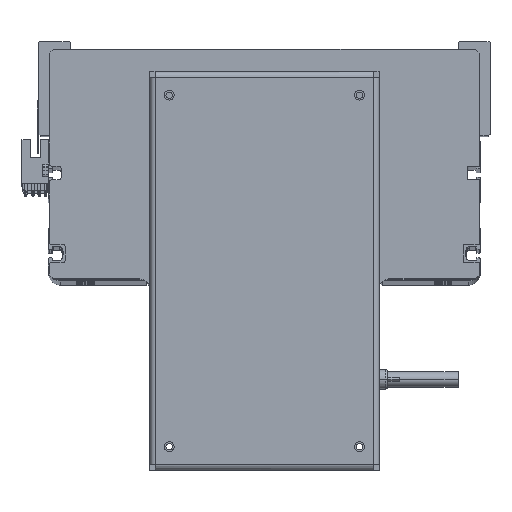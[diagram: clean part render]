
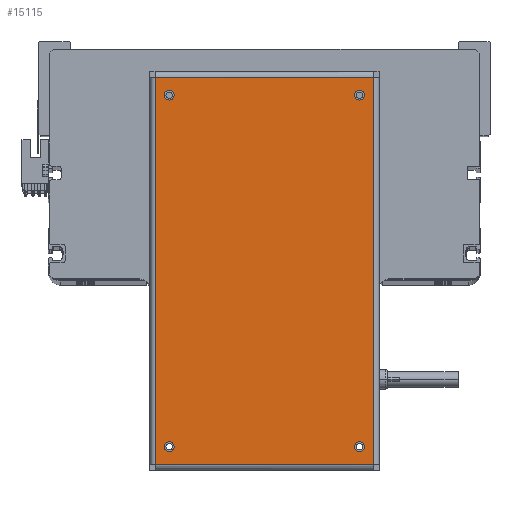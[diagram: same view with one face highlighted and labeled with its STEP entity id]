
A CAD part, top view. The second image highlights one B-rep face of the part: STEP entity #15115.
In plain terms, the highlighted planar face has unit normal (0, 0, 1).
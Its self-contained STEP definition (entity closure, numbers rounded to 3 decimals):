
#17 = VERTEX_POINT ( 'NONE', #34795 ) ;
#600 = EDGE_CURVE ( 'NONE', #17, #27424, #40005, .T. ) ;
#895 = ORIENTED_EDGE ( 'NONE', *, *, #21674, .F. ) ;
#902 = ORIENTED_EDGE ( 'NONE', *, *, #40628, .F. ) ;
#972 = VERTEX_POINT ( 'NONE', #19240 ) ;
#982 = DIRECTION ( 'NONE',  ( 1., 0., 0. ) ) ;
#2079 = AXIS2_PLACEMENT_3D ( 'NONE', #23780, #29968, #36384 ) ;
#2486 = AXIS2_PLACEMENT_3D ( 'NONE', #6886, #35305, #9848 ) ;
#2865 = CARTESIAN_POINT ( 'NONE',  ( 89.55, 48.5, 0. ) ) ;
#4218 = ORIENTED_EDGE ( 'NONE', *, *, #600, .T. ) ;
#4968 = CARTESIAN_POINT ( 'NONE',  ( -87.05, 48.5, 0. ) ) ;
#5200 = CARTESIAN_POINT ( 'NONE',  ( 89.55, -48.5, 0. ) ) ;
#5743 = DIRECTION ( 'NONE',  ( 0., 0., 1. ) ) ;
#6485 = ORIENTED_EDGE ( 'NONE', *, *, #33962, .T. ) ;
#6886 = CARTESIAN_POINT ( 'NONE',  ( 89.55, 48.5, 0. ) ) ;
#7955 = AXIS2_PLACEMENT_3D ( 'NONE', #10368, #26292, #982 ) ;
#8122 = VERTEX_POINT ( 'NONE', #30812 ) ;
#8965 = CARTESIAN_POINT ( 'NONE',  ( 89.55, -48.5, 0. ) ) ;
#9848 = DIRECTION ( 'NONE',  ( 1., 0., 0. ) ) ;
#10368 = CARTESIAN_POINT ( 'NONE',  ( -89.55, -48.5, 0. ) ) ;
#10667 = FACE_BOUND ( 'NONE', #17908, .T. ) ;
#11191 = DIRECTION ( 'NONE',  ( 1., 0., 0. ) ) ;
#11474 = CARTESIAN_POINT ( 'NONE',  ( 98.65, -55.6, 0. ) ) ;
#11674 = FACE_OUTER_BOUND ( 'NONE', #13262, .T. ) ;
#11950 = VERTEX_POINT ( 'NONE', #34826 ) ;
#12080 = CARTESIAN_POINT ( 'NONE',  ( -87.05, -48.5, 0. ) ) ;
#12121 = DIRECTION ( 'NONE',  ( 1., 0., 0. ) ) ;
#12335 = CIRCLE ( 'NONE', #7955, 2.5 ) ;
#12493 = ORIENTED_EDGE ( 'NONE', *, *, #16186, .F. ) ;
#12807 = CARTESIAN_POINT ( 'NONE',  ( 92.05, -48.5, 0. ) ) ;
#13262 = EDGE_LOOP ( 'NONE', ( #39455, #6485, #23081, #4218 ) ) ;
#13671 = VERTEX_POINT ( 'NONE', #23664 ) ;
#14529 = VECTOR ( 'NONE', #30536, 1000. ) ;
#15115 = ADVANCED_FACE ( 'NONE', ( #37162, #28665, #10667, #20150, #11674 ), #40806, .F. ) ;
#15138 = LINE ( 'NONE', #11474, #26133 ) ;
#15450 = VECTOR ( 'NONE', #40626, 1000. ) ;
#15687 = CARTESIAN_POINT ( 'NONE',  ( -92.05, 48.5, 0. ) ) ;
#16186 = EDGE_CURVE ( 'NONE', #31604, #13671, #41095, .T. ) ;
#17272 = EDGE_LOOP ( 'NONE', ( #902, #37098 ) ) ;
#17527 = CIRCLE ( 'NONE', #24713, 2.5 ) ;
#17908 = EDGE_LOOP ( 'NONE', ( #26287, #19791 ) ) ;
#17927 = CARTESIAN_POINT ( 'NONE',  ( 98.75, 55.6, 0. ) ) ;
#18836 = AXIS2_PLACEMENT_3D ( 'NONE', #40098, #30465, #11191 ) ;
#19214 = EDGE_CURVE ( 'NONE', #11950, #31484, #17527, .T. ) ;
#19238 = ORIENTED_EDGE ( 'NONE', *, *, #19380, .F. ) ;
#19240 = CARTESIAN_POINT ( 'NONE',  ( -98.65, -55.6, 0. ) ) ;
#19351 = DIRECTION ( 'NONE',  ( 0., -1., 0. ) ) ;
#19380 = EDGE_CURVE ( 'NONE', #31484, #11950, #40499, .T. ) ;
#19648 = EDGE_LOOP ( 'NONE', ( #12493, #895 ) ) ;
#19791 = ORIENTED_EDGE ( 'NONE', *, *, #32375, .F. ) ;
#20092 = CIRCLE ( 'NONE', #18836, 2.5 ) ;
#20150 = FACE_BOUND ( 'NONE', #37044, .T. ) ;
#21057 = DIRECTION ( 'NONE',  ( 1., 0., 0. ) ) ;
#21657 = CIRCLE ( 'NONE', #2079, 2.5 ) ;
#21674 = EDGE_CURVE ( 'NONE', #13671, #31604, #12335, .T. ) ;
#22180 = LINE ( 'NONE', #32359, #41191 ) ;
#22669 = CARTESIAN_POINT ( 'NONE',  ( -98.65, 55.6, 0. ) ) ;
#23081 = ORIENTED_EDGE ( 'NONE', *, *, #31824, .T. ) ;
#23664 = CARTESIAN_POINT ( 'NONE',  ( -92.05, -48.5, 0. ) ) ;
#23780 = CARTESIAN_POINT ( 'NONE',  ( -89.55, 48.5, 0. ) ) ;
#24264 = CARTESIAN_POINT ( 'NONE',  ( -89.55, -48.5, 0. ) ) ;
#24713 = AXIS2_PLACEMENT_3D ( 'NONE', #2865, #38213, #12121 ) ;
#25165 = EDGE_CURVE ( 'NONE', #30006, #8122, #25477, .T. ) ;
#25477 = CIRCLE ( 'NONE', #30068, 2.5 ) ;
#25606 = ORIENTED_EDGE ( 'NONE', *, *, #19214, .F. ) ;
#25707 = AXIS2_PLACEMENT_3D ( 'NONE', #24264, #40207, #21057 ) ;
#26133 = VECTOR ( 'NONE', #39961, 1000. ) ;
#26287 = ORIENTED_EDGE ( 'NONE', *, *, #25165, .F. ) ;
#26292 = DIRECTION ( 'NONE',  ( 0., 0., 1. ) ) ;
#26297 = VERTEX_POINT ( 'NONE', #28289 ) ;
#27424 = VERTEX_POINT ( 'NONE', #22669 ) ;
#27740 = DIRECTION ( 'NONE',  ( 1., 0., 0. ) ) ;
#28040 = CARTESIAN_POINT ( 'NONE',  ( -98.75, -55.6, 0. ) ) ;
#28241 = CARTESIAN_POINT ( 'NONE',  ( 98.75, 58.5, 0. ) ) ;
#28289 = CARTESIAN_POINT ( 'NONE',  ( 98.65, -55.6, 0. ) ) ;
#28665 = FACE_BOUND ( 'NONE', #17272, .T. ) ;
#28899 = VERTEX_POINT ( 'NONE', #4968 ) ;
#29968 = DIRECTION ( 'NONE',  ( 0., 0., 1. ) ) ;
#30006 = VERTEX_POINT ( 'NONE', #12807 ) ;
#30068 = AXIS2_PLACEMENT_3D ( 'NONE', #5200, #37237, #27740 ) ;
#30465 = DIRECTION ( 'NONE',  ( 0., 0., 1. ) ) ;
#30536 = DIRECTION ( 'NONE',  ( -1., 0., 0. ) ) ;
#30812 = CARTESIAN_POINT ( 'NONE',  ( 87.05, -48.5, 0. ) ) ;
#31289 = EDGE_CURVE ( 'NONE', #27424, #972, #22180, .T. ) ;
#31480 = DIRECTION ( 'NONE',  ( 0., 0., -1. ) ) ;
#31484 = VERTEX_POINT ( 'NONE', #37347 ) ;
#31604 = VERTEX_POINT ( 'NONE', #12080 ) ;
#31824 = EDGE_CURVE ( 'NONE', #26297, #17, #15138, .T. ) ;
#32359 = CARTESIAN_POINT ( 'NONE',  ( -98.65, 55.6, 0. ) ) ;
#32375 = EDGE_CURVE ( 'NONE', #8122, #30006, #38097, .T. ) ;
#32647 = AXIS2_PLACEMENT_3D ( 'NONE', #28241, #31480, #37867 ) ;
#33505 = LINE ( 'NONE', #28040, #15450 ) ;
#33962 = EDGE_CURVE ( 'NONE', #972, #26297, #33505, .T. ) ;
#34795 = CARTESIAN_POINT ( 'NONE',  ( 98.65, 55.6, 0. ) ) ;
#34826 = CARTESIAN_POINT ( 'NONE',  ( 87.05, 48.5, 0. ) ) ;
#35132 = VERTEX_POINT ( 'NONE', #15687 ) ;
#35305 = DIRECTION ( 'NONE',  ( 0., 0., 1. ) ) ;
#36131 = AXIS2_PLACEMENT_3D ( 'NONE', #8965, #5743, #37495 ) ;
#36384 = DIRECTION ( 'NONE',  ( 1., 0., 0. ) ) ;
#37044 = EDGE_LOOP ( 'NONE', ( #19238, #25606 ) ) ;
#37098 = ORIENTED_EDGE ( 'NONE', *, *, #40065, .F. ) ;
#37162 = FACE_BOUND ( 'NONE', #19648, .T. ) ;
#37237 = DIRECTION ( 'NONE',  ( 0., 0., 1. ) ) ;
#37347 = CARTESIAN_POINT ( 'NONE',  ( 92.05, 48.5, 0. ) ) ;
#37495 = DIRECTION ( 'NONE',  ( 1., 0., 0. ) ) ;
#37867 = DIRECTION ( 'NONE',  ( -1., 0., 0. ) ) ;
#38097 = CIRCLE ( 'NONE', #36131, 2.5 ) ;
#38213 = DIRECTION ( 'NONE',  ( 0., 0., 1. ) ) ;
#39455 = ORIENTED_EDGE ( 'NONE', *, *, #31289, .T. ) ;
#39961 = DIRECTION ( 'NONE',  ( 0., 1., 0. ) ) ;
#40005 = LINE ( 'NONE', #17927, #14529 ) ;
#40065 = EDGE_CURVE ( 'NONE', #35132, #28899, #21657, .T. ) ;
#40098 = CARTESIAN_POINT ( 'NONE',  ( -89.55, 48.5, 0. ) ) ;
#40207 = DIRECTION ( 'NONE',  ( 0., 0., 1. ) ) ;
#40499 = CIRCLE ( 'NONE', #2486, 2.5 ) ;
#40626 = DIRECTION ( 'NONE',  ( 1., 0., 0. ) ) ;
#40628 = EDGE_CURVE ( 'NONE', #28899, #35132, #20092, .T. ) ;
#40806 = PLANE ( 'NONE',  #32647 ) ;
#41095 = CIRCLE ( 'NONE', #25707, 2.5 ) ;
#41191 = VECTOR ( 'NONE', #19351, 1000. ) ;
